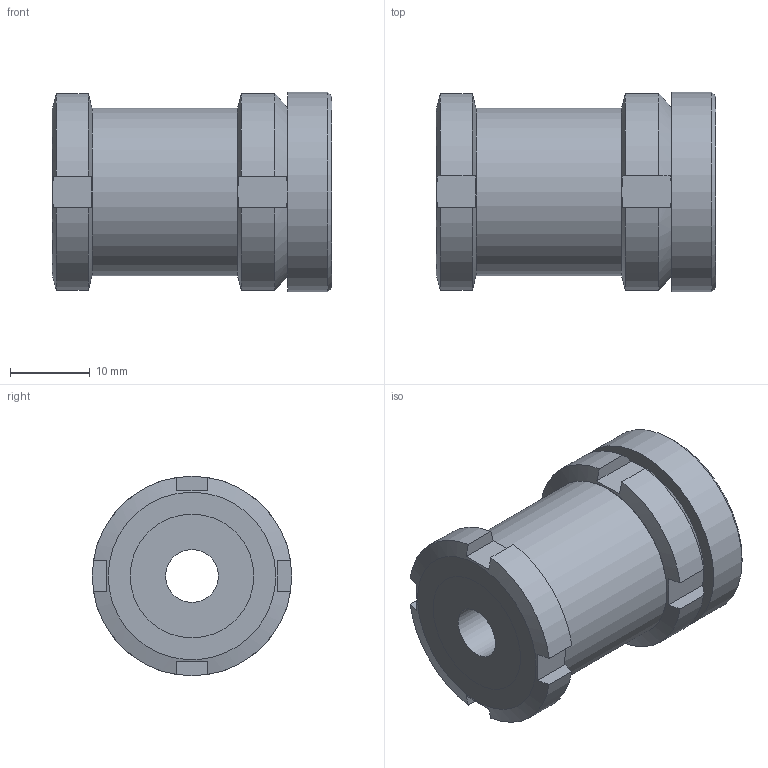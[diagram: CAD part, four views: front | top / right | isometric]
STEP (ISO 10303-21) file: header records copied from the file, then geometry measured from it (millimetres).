
FILE_DESCRIPTION( ( 'STEP AP203' ), '1' );
FILE_NAME( 'C:/Temp/Ganter_Step_05_03_2020/data/3_2/gn350_2/gn_350_2_ni/Stainless Steel-Levelling set GN 350.2-25-6,6-35-NI (0-0).stp', '2020-03-13T05:28:04', ( 'License CC BY-ND 4.0' ), ( 'CADENAS' ), ' ', 'PARTsolutions', ' ' );
FILE_SCHEMA( ( 'CONFIG_CONTROL_DESIGN' ) );
Length unit declared in the file: millimetre
Products named in the file (4): Stainless Steel-Levelling set GN 350.2-25-6,6-35-NI (0-0); _Levelling set GN 350.2-25-6,6-35-ST-G; _Levelling set GN 350.2-25-6,6-35-ST-K; _Levelling set GN 350.2-25-6,6-35-ST-P(0)
Assembly tree (3 placements, depth 2):
  Stainless Steel-Levelling set GN 350.2-25-6,6-35-NI (0-0)
    _Levelling set GN 350.2-25-6,6-35-ST-G
    _Levelling set GN 350.2-25-6,6-35-ST-K
    _Levelling set GN 350.2-25-6,6-35-ST-P(0)
Bounding box: 35 x 25 x 25 mm (x, y, z)
Volume: 12643.6 mm3; surface area: 8021.1 mm2
Topology: 3 solids, 3 shells, 61 faces, 147 edges, 98 vertices
Faces by surface type: plane 36, cylinder 19, cone 4, sphere 2
Full cylindrical faces by diameter (mm): 6.6 x1, 10 x1, 11.605 x1, 12.5 x1, 13.917 x1, 15 x2, 15.5 x2, 21 x1, 25 x1
Entity records: 1905 total; most frequent: CARTESIAN_POINT 459, DIRECTION 272, ORIENTED_EDGE 246, EDGE_CURVE 123, AXIS2_PLACEMENT_3D 120, VERTEX_POINT 91, EDGE_LOOP 90, FACE_OUTER_BOUND 74
